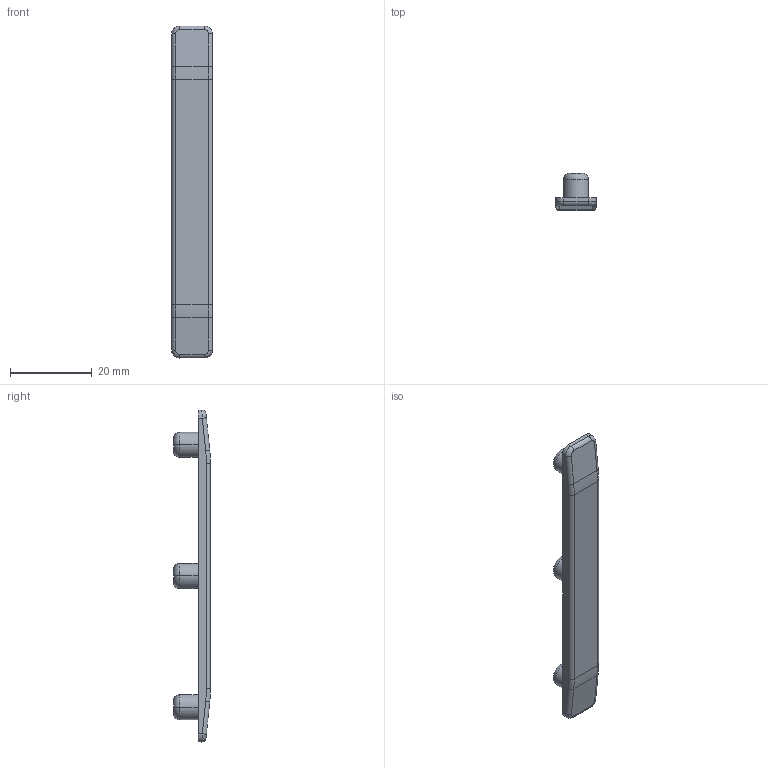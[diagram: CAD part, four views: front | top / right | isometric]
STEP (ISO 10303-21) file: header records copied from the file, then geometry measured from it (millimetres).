
FILE_DESCRIPTION(('CATIA V5 STEP Exchange'),'2;1');
FILE_NAME('C:\Users\nobody\Desktop\SHT0017085_B.stp','2025-06-05T00:50:43+00:00',('none'),('none'),'CATIA Version 5 Release 20 GA (IN-10)','CATIA V5 STEP AP203 Edition 2','none');
FILE_SCHEMA(('AP203_CONFIGURATION_CONTROLLED_3D_DESIGN_OF_MECHANICAL_PARTS_AND_ASSEMBLIES_MIM_LF { 1 0 10303 403 2 1 2}'));
Length unit declared in the file: millimetre
Products named in the file (1): SHT0017085
Bounding box: 10 x 9 x 81 mm (x, y, z)
Volume: 2749.6 mm3; surface area: 2332.2 mm2
Topology: 1 solids, 1 shells, 45 faces, 98 edges, 58 vertices
Faces by surface type: cylinder 20, plane 11, torus 10, bspline 4
Entity records: 1328 total; most frequent: CARTESIAN_POINT 394, ORIENTED_EDGE 196, DIRECTION 153, EDGE_CURVE 98, AXIS2_PLACEMENT_3D 85, VERTEX_POINT 58, CIRCLE 48, EDGE_LOOP 48
